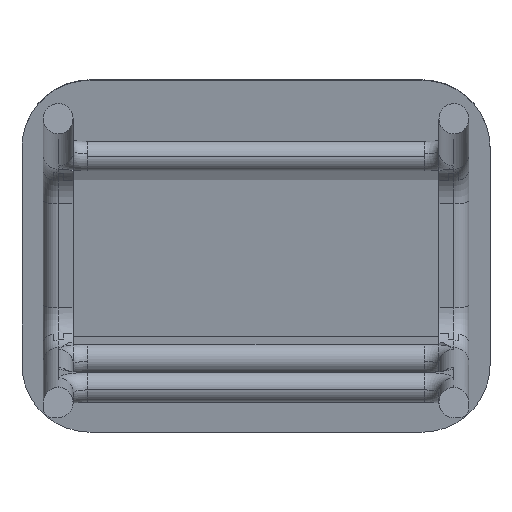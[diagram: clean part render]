
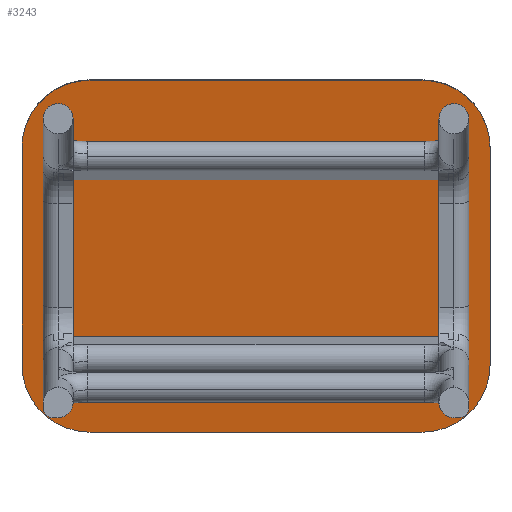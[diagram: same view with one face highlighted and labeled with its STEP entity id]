
A CAD part, front view. The second image highlights one B-rep face of the part: STEP entity #3243.
In plain terms, the highlighted planar face has unit normal (0, -0.985, -0.174).
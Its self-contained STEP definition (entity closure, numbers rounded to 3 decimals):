
#202 = AXIS2_PLACEMENT_3D ( 'NONE', #4985, #4222, #3305 ) ;
#279 = CARTESIAN_POINT ( 'NONE',  ( 195., 114.113, 211.957 ) ) ;
#508 = CARTESIAN_POINT ( 'NONE',  ( 275., 173.153, -122.877 ) ) ;
#571 = CARTESIAN_POINT ( 'NONE',  ( -195., 187.045, -201.662 ) ) ;
#589 = DIRECTION ( 'NONE',  ( 0., 0.174, -0.985 ) ) ;
#717 = CARTESIAN_POINT ( 'NONE',  ( 275., 128.004, 133.173 ) ) ;
#719 = CARTESIAN_POINT ( 'NONE',  ( -195., 128.004, 133.173 ) ) ;
#936 = EDGE_CURVE ( 'NONE', #1437, #1544, #1480, .T. ) ;
#989 = AXIS2_PLACEMENT_3D ( 'NONE', #3136, #1502, #4737 ) ;
#1046 = VECTOR ( 'NONE', #2364, 1000. ) ;
#1222 = DIRECTION ( 'NONE',  ( 0., 0.174, -0.985 ) ) ;
#1225 = EDGE_CURVE ( 'NONE', #3352, #5066, #3895, .T. ) ;
#1304 = CARTESIAN_POINT ( 'NONE',  ( 195., 187.045, -201.662 ) ) ;
#1437 = VERTEX_POINT ( 'NONE', #2384 ) ;
#1440 = ORIENTED_EDGE ( 'NONE', *, *, #3187, .F. ) ;
#1456 = ORIENTED_EDGE ( 'NONE', *, *, #1225, .F. ) ;
#1457 = CARTESIAN_POINT ( 'NONE',  ( 195., 187.045, -201.662 ) ) ;
#1480 = CIRCLE ( 'NONE', #4815, 80. ) ;
#1502 = DIRECTION ( 'NONE',  ( 0., 0.985, 0.174 ) ) ;
#1544 = VERTEX_POINT ( 'NONE', #2946 ) ;
#1596 = ORIENTED_EDGE ( 'NONE', *, *, #4672, .F. ) ;
#1808 = CARTESIAN_POINT ( 'NONE',  ( 195., 114.113, 211.957 ) ) ;
#1913 = ORIENTED_EDGE ( 'NONE', *, *, #2385, .F. ) ;
#2014 = LINE ( 'NONE', #2774, #1046 ) ;
#2117 = VECTOR ( 'NONE', #1222, 1000. ) ;
#2165 = AXIS2_PLACEMENT_3D ( 'NONE', #4886, #3091, #3039 ) ;
#2233 = EDGE_LOOP ( 'NONE', ( #4980, #1440, #4223, #2670, #1913, #1596, #1456, #2692 ) ) ;
#2364 = DIRECTION ( 'NONE',  ( 0., -0.174, 0.985 ) ) ;
#2384 = CARTESIAN_POINT ( 'NONE',  ( -275., 128.004, 133.173 ) ) ;
#2385 = EDGE_CURVE ( 'NONE', #4381, #3649, #3720, .T. ) ;
#2493 = EDGE_CURVE ( 'NONE', #3649, #2508, #3833, .T. ) ;
#2508 = VERTEX_POINT ( 'NONE', #571 ) ;
#2590 = DIRECTION ( 'NONE',  ( -1., 0., 0. ) ) ;
#2670 = ORIENTED_EDGE ( 'NONE', *, *, #2493, .F. ) ;
#2692 = ORIENTED_EDGE ( 'NONE', *, *, #3306, .F. ) ;
#2774 = CARTESIAN_POINT ( 'NONE',  ( -275., 128.004, 133.173 ) ) ;
#2801 = DIRECTION ( 'NONE',  ( 0., 0.174, -0.985 ) ) ;
#2946 = CARTESIAN_POINT ( 'NONE',  ( -195., 114.113, 211.957 ) ) ;
#3000 = CARTESIAN_POINT ( 'NONE',  ( 275., 128.004, 133.173 ) ) ;
#3004 = CARTESIAN_POINT ( 'NONE',  ( -195., 128.004, 133.173 ) ) ;
#3039 = DIRECTION ( 'NONE',  ( 0., -0.174, 0.985 ) ) ;
#3044 = DIRECTION ( 'NONE',  ( 1., 0., 0. ) ) ;
#3091 = DIRECTION ( 'NONE',  ( 0., 0.985, 0.174 ) ) ;
#3136 = CARTESIAN_POINT ( 'NONE',  ( 195., 128.004, 133.173 ) ) ;
#3187 = EDGE_CURVE ( 'NONE', #4481, #1437, #2014, .T. ) ;
#3243 = ADVANCED_FACE ( 'NONE', ( #3552 ), #5172, .T. ) ;
#3251 = LINE ( 'NONE', #717, #2117 ) ;
#3305 = DIRECTION ( 'NONE',  ( 0., -0.174, 0.985 ) ) ;
#3306 = EDGE_CURVE ( 'NONE', #1544, #3352, #4307, .T. ) ;
#3352 = VERTEX_POINT ( 'NONE', #279 ) ;
#3380 = DIRECTION ( 'NONE',  ( 0., 0.985, 0.174 ) ) ;
#3552 = FACE_OUTER_BOUND ( 'NONE', #2233, .T. ) ;
#3649 = VERTEX_POINT ( 'NONE', #1304 ) ;
#3701 = CIRCLE ( 'NONE', #202, 80. ) ;
#3720 = CIRCLE ( 'NONE', #2165, 80. ) ;
#3833 = LINE ( 'NONE', #1457, #4401 ) ;
#3895 = CIRCLE ( 'NONE', #989, 80. ) ;
#4040 = VECTOR ( 'NONE', #3044, 1000. ) ;
#4222 = DIRECTION ( 'NONE',  ( 0., 0.985, 0.174 ) ) ;
#4223 = ORIENTED_EDGE ( 'NONE', *, *, #4302, .F. ) ;
#4302 = EDGE_CURVE ( 'NONE', #2508, #4481, #3701, .T. ) ;
#4307 = LINE ( 'NONE', #1808, #4040 ) ;
#4324 = CARTESIAN_POINT ( 'NONE',  ( -275., 173.153, -122.877 ) ) ;
#4372 = AXIS2_PLACEMENT_3D ( 'NONE', #719, #5228, #2801 ) ;
#4381 = VERTEX_POINT ( 'NONE', #508 ) ;
#4401 = VECTOR ( 'NONE', #2590, 1000. ) ;
#4481 = VERTEX_POINT ( 'NONE', #4324 ) ;
#4672 = EDGE_CURVE ( 'NONE', #5066, #4381, #3251, .T. ) ;
#4737 = DIRECTION ( 'NONE',  ( 0., -0.174, 0.985 ) ) ;
#4815 = AXIS2_PLACEMENT_3D ( 'NONE', #3004, #3380, #589 ) ;
#4886 = CARTESIAN_POINT ( 'NONE',  ( 195., 173.153, -122.877 ) ) ;
#4980 = ORIENTED_EDGE ( 'NONE', *, *, #936, .F. ) ;
#4985 = CARTESIAN_POINT ( 'NONE',  ( -195., 173.153, -122.877 ) ) ;
#5066 = VERTEX_POINT ( 'NONE', #3000 ) ;
#5172 = PLANE ( 'NONE',  #4372 ) ;
#5228 = DIRECTION ( 'NONE',  ( 0., -0.985, -0.174 ) ) ;
